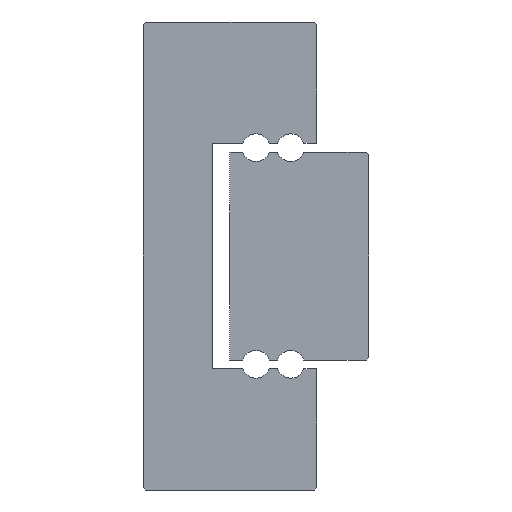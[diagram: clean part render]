
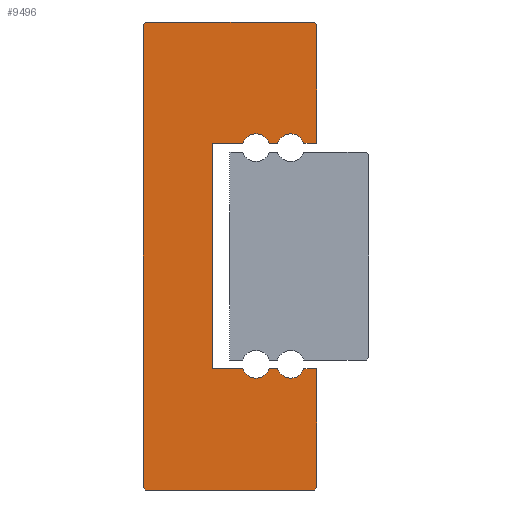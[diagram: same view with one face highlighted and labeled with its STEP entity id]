
A CAD part, left-side view. The second image highlights one B-rep face of the part: STEP entity #9496.
In plain terms, the highlighted planar face has unit normal (-1, 0, 0).
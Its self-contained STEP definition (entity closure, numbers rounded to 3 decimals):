
#314=CIRCLE('',#10320,0.8);
#316=CIRCLE('',#10324,0.8);
#318=CIRCLE('',#10330,0.8);
#320=CIRCLE('',#10334,0.8);
#1605=ORIENTED_EDGE('',*,*,#3976,.F.);
#1606=ORIENTED_EDGE('',*,*,#4426,.F.);
#1607=ORIENTED_EDGE('',*,*,#4423,.F.);
#1608=ORIENTED_EDGE('',*,*,#4410,.F.);
#1609=ORIENTED_EDGE('',*,*,#4407,.F.);
#1610=ORIENTED_EDGE('',*,*,#4404,.F.);
#1611=ORIENTED_EDGE('',*,*,#4401,.F.);
#1612=ORIENTED_EDGE('',*,*,#4398,.F.);
#1613=ORIENTED_EDGE('',*,*,#4395,.T.);
#1614=ORIENTED_EDGE('',*,*,#4392,.F.);
#1615=ORIENTED_EDGE('',*,*,#4389,.T.);
#1616=ORIENTED_EDGE('',*,*,#4386,.F.);
#1617=ORIENTED_EDGE('',*,*,#4383,.F.);
#1618=ORIENTED_EDGE('',*,*,#4380,.F.);
#1619=ORIENTED_EDGE('',*,*,#4377,.T.);
#1620=ORIENTED_EDGE('',*,*,#4374,.F.);
#1621=ORIENTED_EDGE('',*,*,#4371,.T.);
#1622=ORIENTED_EDGE('',*,*,#4368,.F.);
#1623=ORIENTED_EDGE('',*,*,#4365,.F.);
#1624=ORIENTED_EDGE('',*,*,#4362,.F.);
#3976=EDGE_CURVE('',#5422,#5423,#6402,.T.);
#4362=EDGE_CURVE('',#5423,#5808,#6540,.T.);
#4365=EDGE_CURVE('',#5808,#5810,#6543,.T.);
#4368=EDGE_CURVE('',#5810,#5812,#6546,.T.);
#4371=EDGE_CURVE('',#5814,#5812,#314,.T.);
#4374=EDGE_CURVE('',#5814,#5816,#6550,.T.);
#4377=EDGE_CURVE('',#5818,#5816,#316,.T.);
#4380=EDGE_CURVE('',#5818,#5820,#6554,.T.);
#4383=EDGE_CURVE('',#5820,#5822,#6557,.T.);
#4386=EDGE_CURVE('',#5822,#5824,#6560,.T.);
#4389=EDGE_CURVE('',#5826,#5824,#318,.T.);
#4392=EDGE_CURVE('',#5826,#5828,#6564,.T.);
#4395=EDGE_CURVE('',#5830,#5828,#320,.T.);
#4398=EDGE_CURVE('',#5830,#5832,#6568,.T.);
#4401=EDGE_CURVE('',#5832,#5834,#6571,.T.);
#4404=EDGE_CURVE('',#5834,#5836,#6574,.T.);
#4407=EDGE_CURVE('',#5836,#5838,#6577,.T.);
#4410=EDGE_CURVE('',#5838,#5840,#6580,.T.);
#4423=EDGE_CURVE('',#5840,#5852,#6583,.T.);
#4426=EDGE_CURVE('',#5852,#5422,#6586,.T.);
#5422=VERTEX_POINT('',#14531);
#5423=VERTEX_POINT('',#14532);
#5808=VERTEX_POINT('',#15304);
#5810=VERTEX_POINT('',#15310);
#5812=VERTEX_POINT('',#15316);
#5814=VERTEX_POINT('',#15322);
#5816=VERTEX_POINT('',#15328);
#5818=VERTEX_POINT('',#15334);
#5820=VERTEX_POINT('',#15340);
#5822=VERTEX_POINT('',#15346);
#5824=VERTEX_POINT('',#15352);
#5826=VERTEX_POINT('',#15358);
#5828=VERTEX_POINT('',#15364);
#5830=VERTEX_POINT('',#15370);
#5832=VERTEX_POINT('',#15376);
#5834=VERTEX_POINT('',#15382);
#5836=VERTEX_POINT('',#15388);
#5838=VERTEX_POINT('',#15394);
#5840=VERTEX_POINT('',#15400);
#5852=VERTEX_POINT('',#15426);
#6402=LINE('',#14530,#7218);
#6540=LINE('',#15303,#7356);
#6543=LINE('',#15309,#7359);
#6546=LINE('',#15315,#7362);
#6550=LINE('',#15327,#7366);
#6554=LINE('',#15339,#7370);
#6557=LINE('',#15345,#7373);
#6560=LINE('',#15351,#7376);
#6564=LINE('',#15363,#7380);
#6568=LINE('',#15375,#7384);
#6571=LINE('',#15381,#7387);
#6574=LINE('',#15387,#7390);
#6577=LINE('',#15393,#7393);
#6580=LINE('',#15399,#7396);
#6583=LINE('',#15425,#7399);
#6586=LINE('',#15431,#7402);
#7218=VECTOR('',#11343,1000.);
#7356=VECTOR('',#11979,1000.);
#7359=VECTOR('',#11984,1000.);
#7362=VECTOR('',#11989,1000.);
#7366=VECTOR('',#12001,1000.);
#7370=VECTOR('',#12013,1000.);
#7373=VECTOR('',#12018,1000.);
#7376=VECTOR('',#12023,1000.);
#7380=VECTOR('',#12035,1000.);
#7384=VECTOR('',#12047,1000.);
#7387=VECTOR('',#12052,1000.);
#7390=VECTOR('',#12057,1000.);
#7393=VECTOR('',#12062,1000.);
#7396=VECTOR('',#12067,1000.);
#7399=VECTOR('',#12092,1000.);
#7402=VECTOR('',#12097,1000.);
#8094=EDGE_LOOP('',(#1605,#1606,#1607,#1608,#1609,#1610,#1611,#1612,#1613,
#1614,#1615,#1616,#1617,#1618,#1619,#1620,#1621,#1622,#1623,#1624));
#8711=FACE_BOUND('',#8094,.T.);
#9264=PLANE('',#10354);
#9496=ADVANCED_FACE('',(#8711),#9264,.F.);
#10320=AXIS2_PLACEMENT_3D('',#15321,#11994,#11995);
#10324=AXIS2_PLACEMENT_3D('',#15333,#12006,#12007);
#10330=AXIS2_PLACEMENT_3D('',#15357,#12028,#12029);
#10334=AXIS2_PLACEMENT_3D('',#15369,#12040,#12041);
#10354=AXIS2_PLACEMENT_3D('',#15434,#12101,#12102);
#11343=DIRECTION('',(0.,-1.,0.));
#11979=DIRECTION('',(0.,-0.707,-0.707));
#11984=DIRECTION('',(0.,0.,-1.));
#11989=DIRECTION('',(0.,1.,0.));
#11994=DIRECTION('',(1.,0.,0.));
#11995=DIRECTION('',(0.,0.,-1.));
#12001=DIRECTION('',(0.,1.,0.));
#12006=DIRECTION('',(1.,0.,0.));
#12007=DIRECTION('',(0.,0.,-1.));
#12013=DIRECTION('',(0.,1.,0.));
#12018=DIRECTION('',(0.,0.,-1.));
#12023=DIRECTION('',(0.,-1.,0.));
#12028=DIRECTION('',(1.,0.,0.));
#12029=DIRECTION('',(0.,0.,-1.));
#12035=DIRECTION('',(0.,-1.,0.));
#12040=DIRECTION('',(1.,0.,0.));
#12041=DIRECTION('',(0.,0.,-1.));
#12047=DIRECTION('',(0.,-1.,0.));
#12052=DIRECTION('',(0.,0.,-1.));
#12057=DIRECTION('',(0.,0.707,-0.707));
#12062=DIRECTION('',(0.,1.,0.));
#12067=DIRECTION('',(0.,0.707,0.707));
#12092=DIRECTION('',(0.,0.,1.));
#12097=DIRECTION('',(0.,-0.707,0.707));
#12101=DIRECTION('',(1.,0.,0.));
#12102=DIRECTION('',(0.,0.,-1.));
#14530=CARTESIAN_POINT('',(-40.,9.85,13.5));
#14531=CARTESIAN_POINT('',(-40.,9.85,13.5));
#14532=CARTESIAN_POINT('',(-40.,0.15,13.5));
#15303=CARTESIAN_POINT('',(-40.,0.15,13.5));
#15304=CARTESIAN_POINT('',(-40.,0.,13.35));
#15309=CARTESIAN_POINT('',(-40.,0.,13.35));
#15310=CARTESIAN_POINT('',(-40.,0.,6.5));
#15315=CARTESIAN_POINT('',(-40.,0.,6.5));
#15316=CARTESIAN_POINT('',(-40.,0.74,6.5));
#15321=CARTESIAN_POINT('',(-40.,1.5,6.25));
#15322=CARTESIAN_POINT('',(-40.,2.26,6.5));
#15327=CARTESIAN_POINT('',(-40.,2.26,6.5));
#15328=CARTESIAN_POINT('',(-40.,2.74,6.5));
#15333=CARTESIAN_POINT('',(-40.,3.5,6.25));
#15334=CARTESIAN_POINT('',(-40.,4.26,6.5));
#15339=CARTESIAN_POINT('',(-40.,4.26,6.5));
#15340=CARTESIAN_POINT('',(-40.,6.,6.5));
#15345=CARTESIAN_POINT('',(-40.,6.,6.5));
#15346=CARTESIAN_POINT('',(-40.,6.,-6.5));
#15351=CARTESIAN_POINT('',(-40.,6.,-6.5));
#15352=CARTESIAN_POINT('',(-40.,4.26,-6.5));
#15357=CARTESIAN_POINT('',(-40.,3.5,-6.25));
#15358=CARTESIAN_POINT('',(-40.,2.74,-6.5));
#15363=CARTESIAN_POINT('',(-40.,2.74,-6.5));
#15364=CARTESIAN_POINT('',(-40.,2.26,-6.5));
#15369=CARTESIAN_POINT('',(-40.,1.5,-6.25));
#15370=CARTESIAN_POINT('',(-40.,0.74,-6.5));
#15375=CARTESIAN_POINT('',(-40.,0.74,-6.5));
#15376=CARTESIAN_POINT('',(-40.,0.,-6.5));
#15381=CARTESIAN_POINT('',(-40.,0.,-6.5));
#15382=CARTESIAN_POINT('',(-40.,0.,-13.35));
#15387=CARTESIAN_POINT('',(-40.,0.,-13.35));
#15388=CARTESIAN_POINT('',(-40.,0.15,-13.5));
#15393=CARTESIAN_POINT('',(-40.,0.15,-13.5));
#15394=CARTESIAN_POINT('',(-40.,9.85,-13.5));
#15399=CARTESIAN_POINT('',(-40.,9.85,-13.5));
#15400=CARTESIAN_POINT('',(-40.,10.,-13.35));
#15425=CARTESIAN_POINT('',(-40.,10.,-13.35));
#15426=CARTESIAN_POINT('',(-40.,10.,13.35));
#15431=CARTESIAN_POINT('',(-40.,10.,13.35));
#15434=CARTESIAN_POINT('',(-40.,1.5,6.25));
